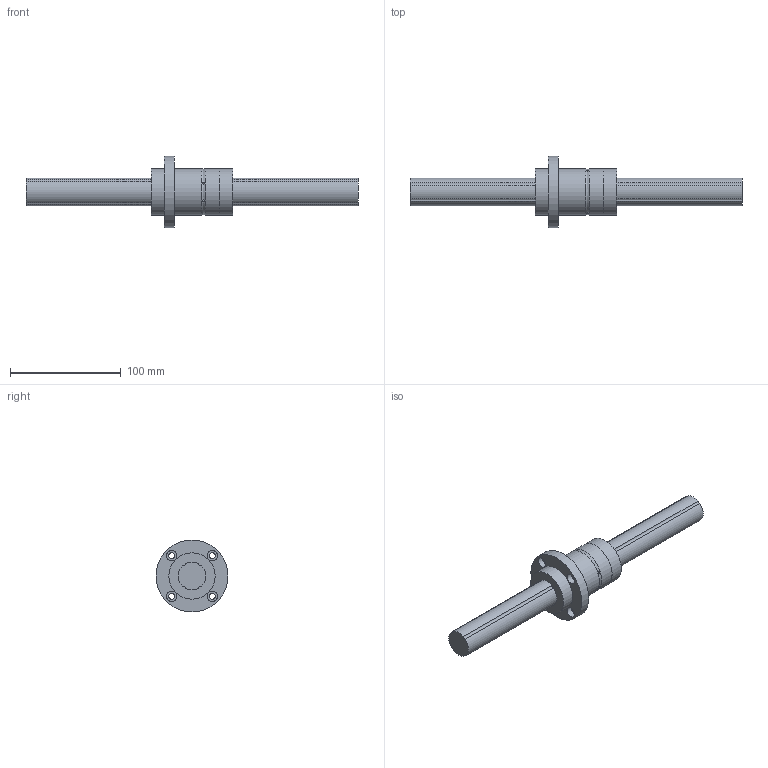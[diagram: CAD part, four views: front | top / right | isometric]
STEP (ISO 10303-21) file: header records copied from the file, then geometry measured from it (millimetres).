
FILE_DESCRIPTION((''),'2;1');
FILE_NAME('C:\Documents and Settings\土屋\My Documents\土屋移動用フォルダ\製品 (図面)\カタログ用3D\ボールスプライン\BSPF\BSPF25.stp','2015-02-23T13:32:20',('y'),(''),'Autodesk Inventor 11','Autodesk Inventor 11','');
FILE_SCHEMA(('AUTOMOTIVE_DESIGN { 1 0 10303 214 1 1 1 1 }'));
Length unit declared in the file: millimetre
Products named in the file (3): BSPF25; BSP25軸; BSPF25ナット
Assembly tree (2 placements, depth 2):
  BSPF25
    BSP25軸
    BSPF25ナット
Bounding box: 300 x 65 x 65 mm (x, y, z)
Volume: 227105.2 mm3; surface area: 47891.5 mm2
Topology: 2 solids, 2 shells, 49 faces, 108 edges, 74 vertices
Faces by surface type: cylinder 23, bspline 17, plane 9
Full cylindrical faces by diameter (mm): 2 x2, 41.8 x2, 42 x2, 65 x1
Entity records: 1686 total; most frequent: CARTESIAN_POINT 632, DIRECTION 214, ORIENTED_EDGE 164, AXIS2_PLACEMENT_3D 99, EDGE_LOOP 88, EDGE_CURVE 82, VERTEX_POINT 66, CIRCLE 62
